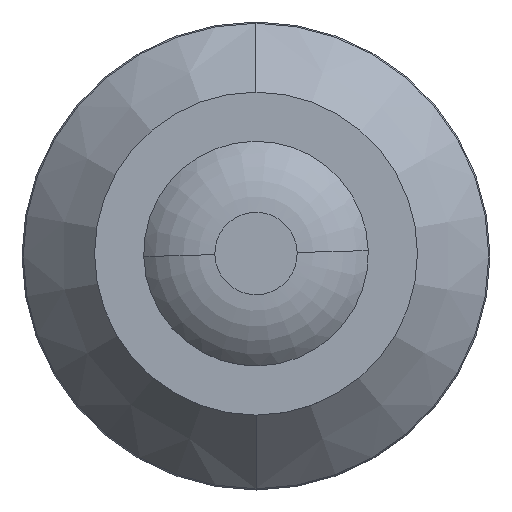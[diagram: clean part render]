
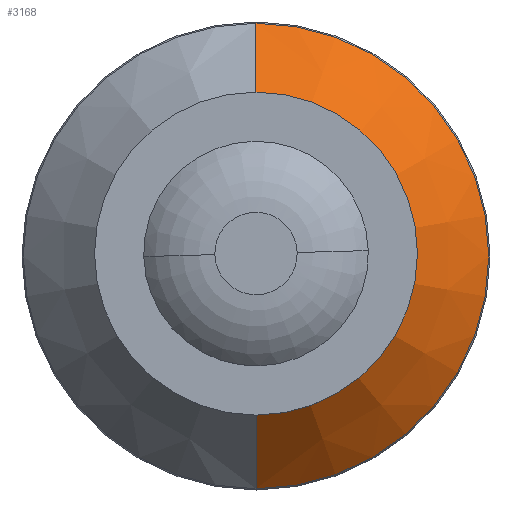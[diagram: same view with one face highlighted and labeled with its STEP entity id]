
A CAD part, top view. The second image highlights one B-rep face of the part: STEP entity #3168.
In plain terms, the highlighted conical face has half-angle 42.797 degrees and reference radius 12.5 mm.
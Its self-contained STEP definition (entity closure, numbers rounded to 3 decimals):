
#25 = EDGE_CURVE ( 'NONE', #3591, #2370, #3501, .T. ) ;
#490 = CARTESIAN_POINT ( 'NONE',  ( 0., -0.16, 12.648 ) ) ;
#628 = DIRECTION ( 'NONE',  ( 0., 0., -1. ) ) ;
#631 = FACE_OUTER_BOUND ( 'NONE', #3127, .T. ) ;
#632 = DIRECTION ( 'NONE',  ( 0., -1., 0. ) ) ;
#633 = CARTESIAN_POINT ( 'NONE',  ( 0., 0., 0. ) ) ;
#684 = LINE ( 'NONE', #685, #945 ) ;
#685 = CARTESIAN_POINT ( 'NONE',  ( 0., 0., -12.5 ) ) ;
#693 = DIRECTION ( 'NONE',  ( 0., -0.734, -0.679 ) ) ;
#694 = LINE ( 'NONE', #695, #947 ) ;
#695 = CARTESIAN_POINT ( 'NONE',  ( 0., 0., 12.5 ) ) ;
#696 = DIRECTION ( 'NONE',  ( 0., -0.734, 0.679 ) ) ;
#918 = AXIS2_PLACEMENT_3D ( 'NONE', #633, #632, #628 ) ;
#920 = CONICAL_SURFACE ( 'NONE', #918, 12.5, 0.747 ) ;
#945 = VECTOR ( 'NONE', #693, 1000. ) ;
#947 = VECTOR ( 'NONE', #696, 1000. ) ;
#1534 = EDGE_CURVE ( 'NONE', #3612, #3629, #2620, .T. ) ;
#1831 = CARTESIAN_POINT ( 'NONE',  ( 0., -13.356, 24.867 ) ) ;
#1841 = CARTESIAN_POINT ( 'NONE',  ( 0., -0.16, -12.648 ) ) ;
#1844 = CARTESIAN_POINT ( 'NONE',  ( 0., -13.356, -24.867 ) ) ;
#2256 = ORIENTED_EDGE ( 'NONE', *, *, #25, .T. ) ;
#2257 = ORIENTED_EDGE ( 'NONE', *, *, #3514, .T. ) ;
#2258 = ORIENTED_EDGE ( 'NONE', *, *, #1534, .T. ) ;
#2259 = ORIENTED_EDGE ( 'NONE', *, *, #3513, .F. ) ;
#2370 = VERTEX_POINT ( 'NONE', #490 ) ;
#2387 = CARTESIAN_POINT ( 'NONE',  ( 0., -0.16, 0. ) ) ;
#2388 = DIRECTION ( 'NONE',  ( 0., -1., 0. ) ) ;
#2389 = DIRECTION ( 'NONE',  ( 0., 0., 1. ) ) ;
#2620 = CIRCLE ( 'NONE', #2625, 24.867 ) ;
#2625 = AXIS2_PLACEMENT_3D ( 'NONE', #3385, #3386, #3387 ) ;
#3127 = EDGE_LOOP ( 'NONE', ( #2256, #2257, #2258, #2259 ) ) ;
#3168 = ADVANCED_FACE ( 'NONE', ( #631 ), #920, .T. ) ;
#3385 = CARTESIAN_POINT ( 'NONE',  ( 0., -13.356, 0. ) ) ;
#3386 = DIRECTION ( 'NONE',  ( 0., 1., 0. ) ) ;
#3387 = DIRECTION ( 'NONE',  ( 0., 0., 1. ) ) ;
#3498 = AXIS2_PLACEMENT_3D ( 'NONE', #2387, #2388, #2389 ) ;
#3501 = CIRCLE ( 'NONE', #3498, 12.648 ) ;
#3513 = EDGE_CURVE ( 'NONE', #3591, #3629, #684, .T. ) ;
#3514 = EDGE_CURVE ( 'NONE', #2370, #3612, #694, .T. ) ;
#3591 = VERTEX_POINT ( 'NONE', #1841 ) ;
#3612 = VERTEX_POINT ( 'NONE', #1831 ) ;
#3629 = VERTEX_POINT ( 'NONE', #1844 ) ;
